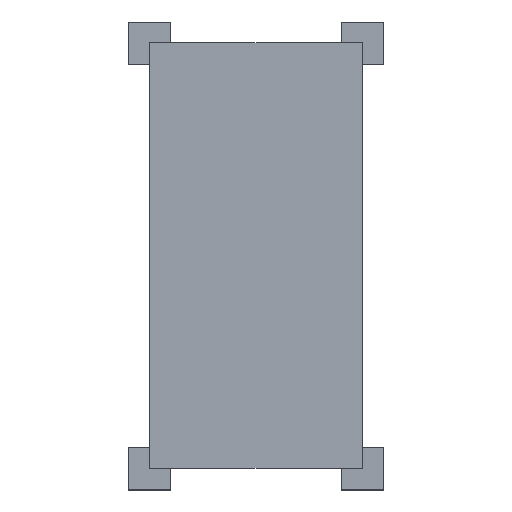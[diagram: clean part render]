
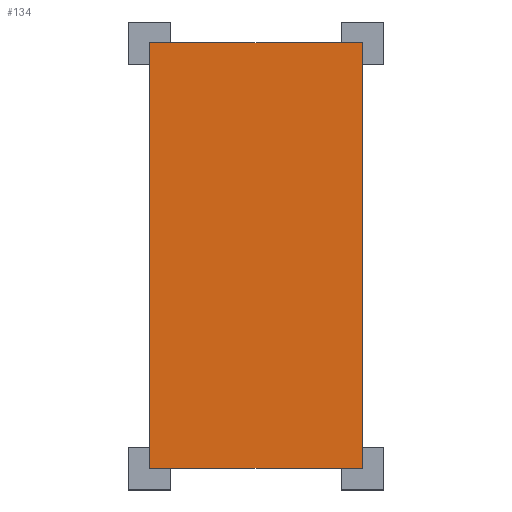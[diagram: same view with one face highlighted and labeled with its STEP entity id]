
A CAD part, top view. The second image highlights one B-rep face of the part: STEP entity #134.
In plain terms, the highlighted planar face has unit normal (0, 0, 1).
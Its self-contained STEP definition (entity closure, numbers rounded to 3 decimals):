
#81=FACE_OUTER_BOUND($,#93,.T.);
#93=EDGE_LOOP($,(#146,#147,#148,#149));
#105=AXIS2_PLACEMENT_3D($,#328,#222,#223);
#122=PLANE($,#105);
#134=ADVANCED_FACE($,(#81),#122,.T.);
#146=ORIENTED_EDGE($,*,*,#194,.T.);
#147=ORIENTED_EDGE($,*,*,#195,.T.);
#148=ORIENTED_EDGE($,*,*,#196,.T.);
#149=ORIENTED_EDGE($,*,*,#197,.T.);
#194=EDGE_CURVE($,#357,#358,#300,.T.);
#195=EDGE_CURVE($,#358,#359,#301,.T.);
#196=EDGE_CURVE($,#359,#360,#302,.T.);
#197=EDGE_CURVE($,#360,#357,#303,.T.);
#218=DIRECTION($,(-1.,0.,0.));
#219=DIRECTION($,(0.,-1.,0.));
#220=DIRECTION($,(1.,0.,0.));
#221=DIRECTION($,(0.,1.,0.));
#222=DIRECTION($,(0.,0.,1.));
#223=DIRECTION($,(1.,0.,0.));
#276=VECTOR($,#218,10.);
#277=VECTOR($,#219,20.);
#278=VECTOR($,#220,10.);
#279=VECTOR($,#221,20.);
#300=LINE($,#324,#276);
#301=LINE($,#325,#277);
#302=LINE($,#326,#278);
#303=LINE($,#327,#279);
#324=CARTESIAN_POINT($,(5.,10.,8.));
#325=CARTESIAN_POINT($,(-5.,10.,8.));
#326=CARTESIAN_POINT($,(-5.,-10.,8.));
#327=CARTESIAN_POINT($,(5.,-10.,8.));
#328=CARTESIAN_POINT($,(0.,0.,8.));
#357=VERTEX_POINT($,#324);
#358=VERTEX_POINT($,#325);
#359=VERTEX_POINT($,#326);
#360=VERTEX_POINT($,#327);
